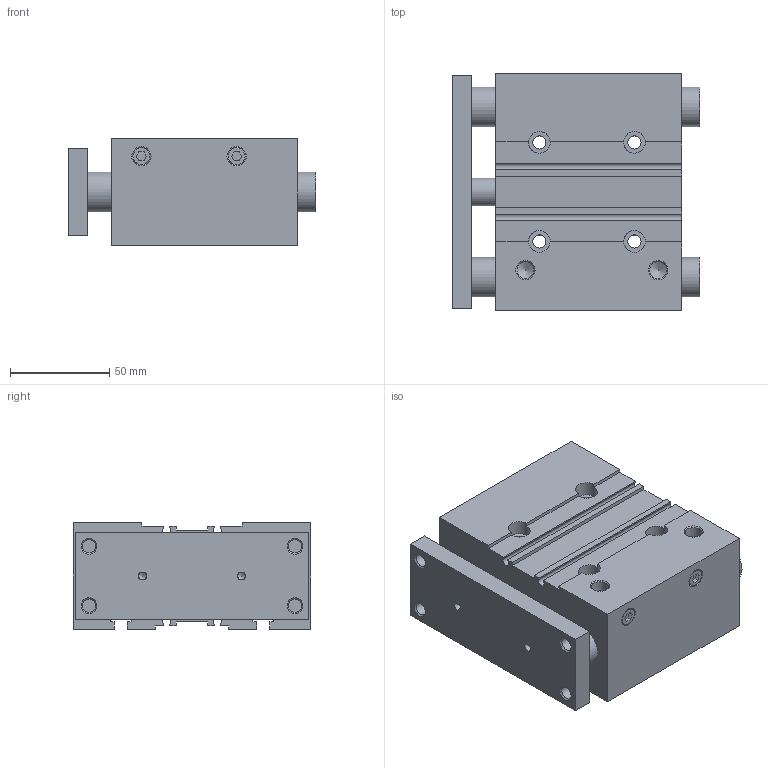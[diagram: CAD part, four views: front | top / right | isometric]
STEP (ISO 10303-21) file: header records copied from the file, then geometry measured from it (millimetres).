
FILE_DESCRIPTION(/* description */ ('STEP AP214'),/* implementation_level */ '2;1');
FILE_NAME(/* name */ 'MGPM40TF-50Z(0_0)',/* time_stamp */ '2025-08-29T07:52:02+02:00',/* author */ ('License CC BY-ND 4.0'),/* organization */ ('CADENAS'),/* preprocessor_version */ 'ST-DEVELOPER v19.3',/* originating_system */ 'PARTsolutions',/* authorisation */ ' ');
FILE_SCHEMA (('AUTOMOTIVE_DESIGN {1 0 10303 214 3 1 1}'));
Length unit declared in the file: millimetre
Products named in the file (4): MGPM40TF-50Z(0_0); MGPM40-50Z(0)_BODY; MGPM40-50Z(0)_ROD; MGP-Z_PLUG_40
Assembly tree (4 placements, depth 2):
  MGPM40TF-50Z(0_0)
    MGPM40-50Z(0)_BODY
    MGPM40-50Z(0)_ROD
    MGP-Z_PLUG_40  x2
Bounding box: 125 x 120 x 54 mm (x, y, z)
Volume: 564510 mm3; surface area: 117415.2 mm2
Topology: 4 solids, 4 shells, 200 faces, 484 edges, 308 vertices
Faces by surface type: plane 108, cylinder 54, cone 38
Full cylindrical faces by diameter (mm): 4 x6, 6.647 x12, 6.7 x4, 8 x4, 8.566 x4, 9.728 x2, 11 x4, 14 x2, 20 x4, 40 x2
Entity records: 5105 total; most frequent: DIRECTION 880, CARTESIAN_POINT 837, ORIENTED_EDGE 718, EDGE_CURVE 359, AXIS2_PLACEMENT_3D 328, FACE_BOUND 316, EDGE_LOOP 302, VERTEX_POINT 285
